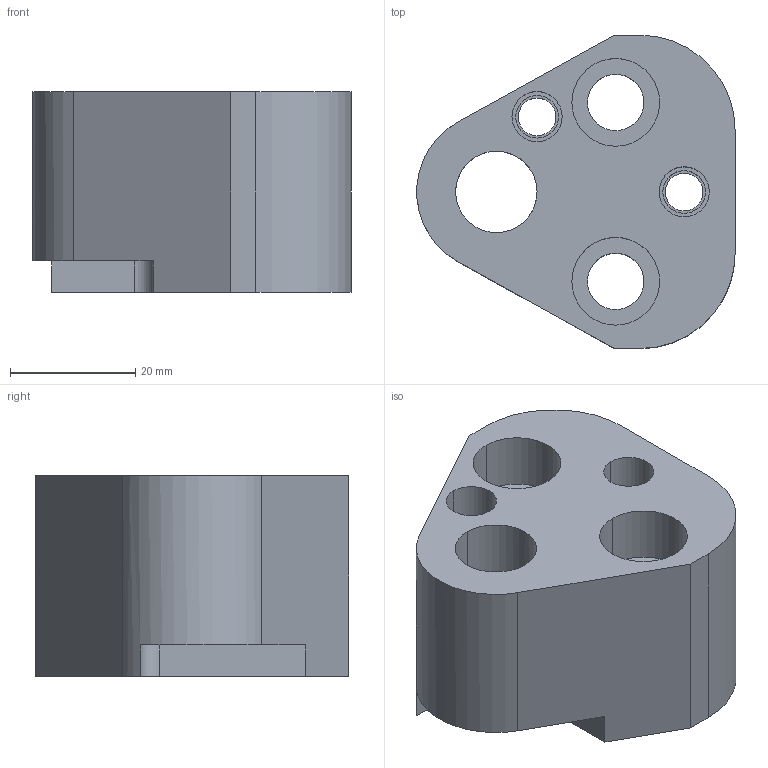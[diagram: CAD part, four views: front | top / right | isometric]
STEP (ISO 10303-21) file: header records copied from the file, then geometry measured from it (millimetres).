
FILE_DESCRIPTION(/* description */ (''),/* implementation_level */ '2;1');
FILE_NAME(/* name */ '3d_crn-f13_03643_r00.stp',/* time_stamp */ '2011-01-10T14:16:22+09:00',/* author */ ('MISUMI'),/* organization */ (''),/* preprocessor_version */ 'ST-DEVELOPER v11',/* originating_system */ 'UGS - NX 5.0',/* authorisation */ '');
FILE_SCHEMA (('CONFIG_CONTROL_DESIGN'));
Length unit declared in the file: millimetre
Products named in the file (1): 3d_crn-f13_03643_r00
Bounding box: 50.77 x 50 x 32 mm (x, y, z)
Volume: 46009.1 mm3; surface area: 12850.6 mm2
Topology: 1 solids, 1 shells, 44 faces, 110 edges, 73 vertices
Faces by surface type: cylinder 26, plane 16, cone 2
Entity records: 1451 total; most frequent: DIRECTION 255, CARTESIAN_POINT 233, ORIENTED_EDGE 220, EDGE_CURVE 110, AXIS2_PLACEMENT_3D 101, VERTEX_POINT 73, EDGE_LOOP 59, CIRCLE 56
